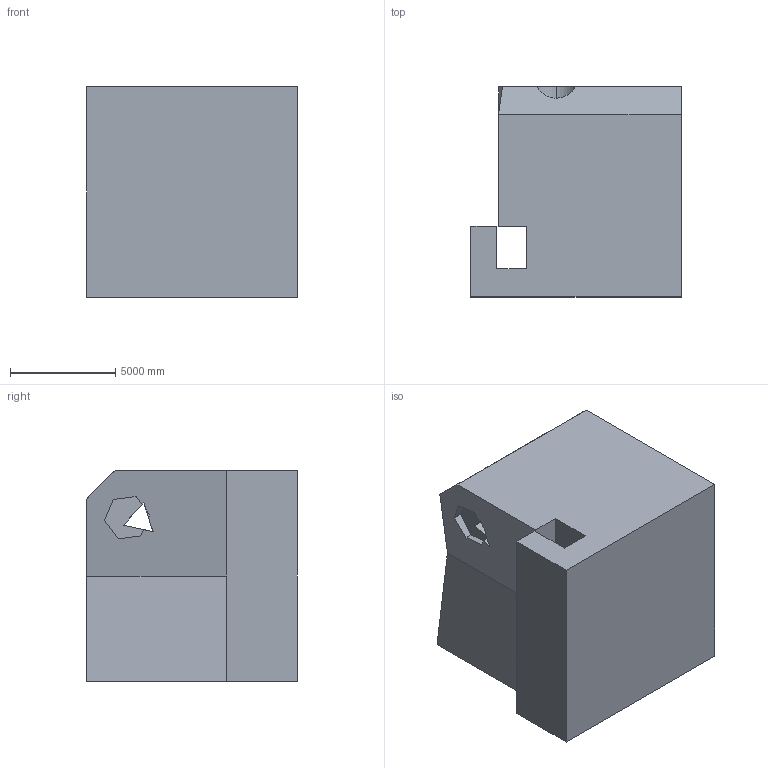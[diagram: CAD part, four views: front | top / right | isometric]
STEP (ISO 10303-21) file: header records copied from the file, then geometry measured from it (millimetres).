
FILE_DESCRIPTION (( 'STEP AP203' ), '1' );
FILE_NAME ('846.STEP', '2022-08-04T16:00:00', ( 'user' ), ( '' ), 'SwSTEP 2.0', 'SolidWorks 2021', '' );
FILE_SCHEMA (( 'CONFIG_CONTROL_DESIGN' ));
Length unit declared in the file: centimetre
Products named in the file (1): 846
Bounding box: 10000 x 10000 x 10000 mm (x, y, z)
Volume: 784681015637.1 mm3; surface area: 769974206 mm2
Topology: 1 solids, 1 shells, 47 faces, 129 edges, 86 vertices
Faces by surface type: plane 42, cylinder 5
Entity records: 1558 total; most frequent: CARTESIAN_POINT 287, ORIENTED_EDGE 258, DIRECTION 227, EDGE_CURVE 129, VECTOR 111, LINE 111, VERTEX_POINT 86, AXIS2_PLACEMENT_3D 58
